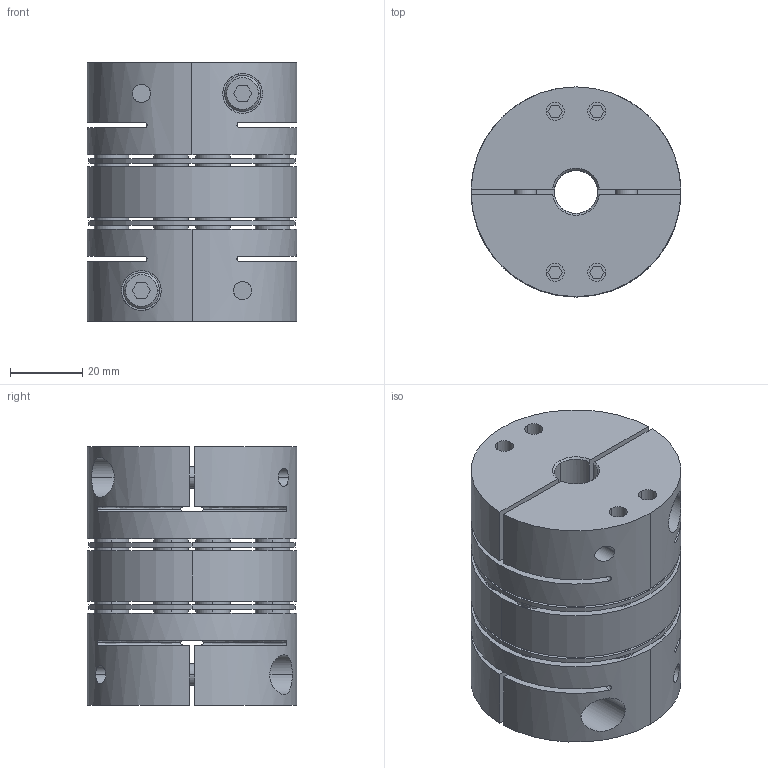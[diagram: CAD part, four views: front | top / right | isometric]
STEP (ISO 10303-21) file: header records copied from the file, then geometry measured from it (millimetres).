
FILE_DESCRIPTION((''),'2;1');
FILE_NAME('TAD-58C-12×12.stp','2022-11-13T21:46:12',(''),(''),'AutoCAD STEP 2000i','AutoCAD 2000i',', , ');
FILE_SCHEMA(('CONFIG_CONTROL_DESIGN'));
Length unit declared in the file: millimetre
Products named in the file (6): TAD-58C-12×12; 忣兜1; TA58C-12-2; CAP-M6×20; TA58C-12; TAS-58C-ITA
Assembly tree (6 placements, depth 3):
  TAD-58C-12×12
    忣兜1
    TA58C-12-2
      CAP-M6×20
    TA58C-12
      CAP-M6×20
    TAS-58C-ITA
Bounding box: 58 x 58 x 71.5 mm (x, y, z)
Volume: 142618.1 mm3; surface area: 56546 mm2
Topology: 1 solids, 5 shells, 568 faces, 1364 edges, 920 vertices
Faces by surface type: plane 252, cylinder 228, cone 72, bspline 16
Entity records: 18933 total; most frequent: CARTESIAN_POINT 5151, DIRECTION 2994, ORIENTED_EDGE 2640, EDGE_CURVE 1320, AXIS2_PLACEMENT_3D 1139, VERTEX_POINT 860, EDGE_LOOP 724, VECTOR 716
